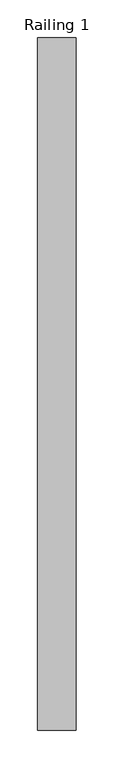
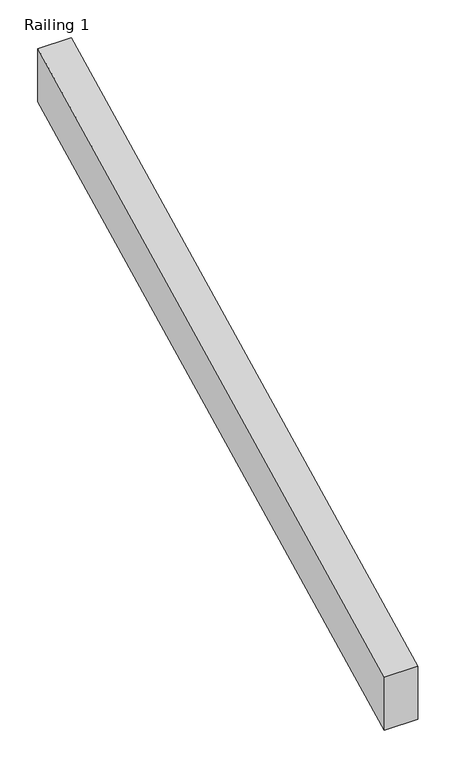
"""IFC4 building model written with IfcOpenShell, lengths in millimetres: railing geometry, Railing 1."""

from ifc_helpers import new_model, si_unit, frame, origin, place, context, project, spatial, polyline, outline, extrude, source, transform, mapped, element, save


def railing_1_5d077472(model_context):
    return source(origin(), model_context, "Body", "SweptSolid", [
        extrude(outline(polyline([(595555.8230064, 981.6058101), (595555.8230064, 1066.8), (596470.2230064, 1524.0), (596470.2230064, 1438.8058101), (595555.8230064, 981.6058101)])), frame((81907.2199803, 0.0, 0.0), z_axis=(1.0, 0.0, 0.0), x_axis=(0.0, 1.0, 0.0)), (0.0, 0.0, 1.0), 50.8),
    ])


if __name__ == "__main__":
    model = new_model("IFC4")
    model_context = context("Model", 3, world=origin())
    ifc_project = project(units=[si_unit("LENGTHUNIT", "METRE", prefix="MILLI")], contexts=[model_context])
    site = spatial("IfcSite", under=ifc_project)
    building = spatial("IfcBuilding", under=site)
    placement = place(None, origin())
    railing_1_shape = railing_1_5d077472(model_context)
    element("IfcRailing", 1, ObjectType="Railing 1", at=placement, inside=building, context=model_context, shape_type="MappedRepresentation", body=[
        mapped(railing_1_shape, transform((0.0, 0.0, 0.0), x_axis=(1.0, 0.0, 0.0), y_axis=(0.0, 1.0, 0.0), z_axis=(0.0, 0.0, 1.0))),
    ])
    save(model, "model.ifc")
